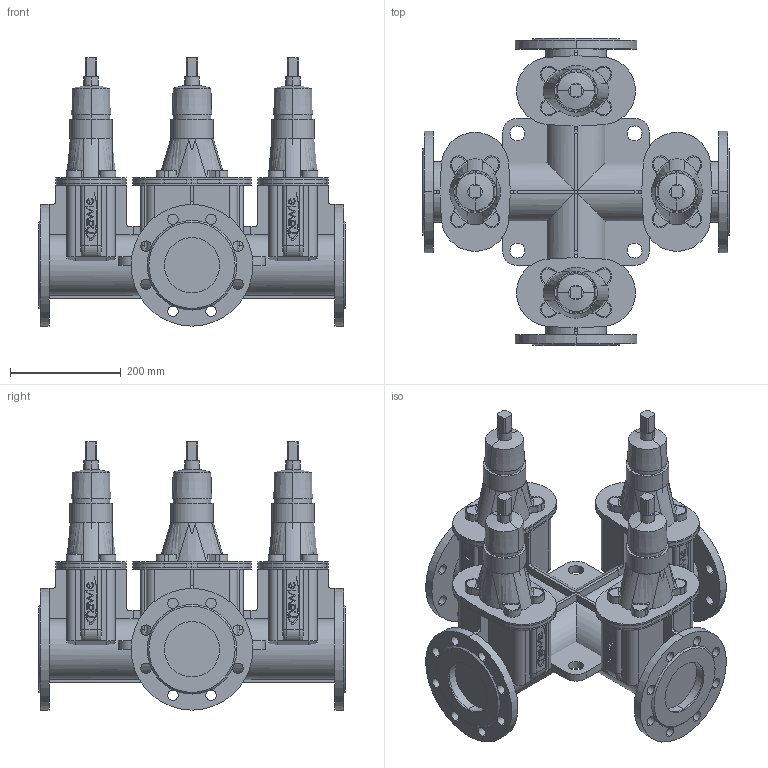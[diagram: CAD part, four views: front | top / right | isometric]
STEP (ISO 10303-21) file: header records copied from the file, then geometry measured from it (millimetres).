
FILE_DESCRIPTION(('STEP AP214'),'1');
FILE_NAME('S:/EK/USER/CAT6/3DHomepage_27-04-2012/neu_23-01-2013/4400E2/4400E2_PN16_DN100_4.STP','2013-01-23T14:46:58',(' '),(' '),'Spatial InterOp 3D',' ',' ');
FILE_SCHEMA(('automotive_design'));
Length unit declared in the file: millimetre
Products named in the file (186): 3D-Objekt
Bounding box: 555 x 555 x 485 mm (x, y, z)
Volume: 25508329.7 mm3; surface area: 2770064.2 mm2
Topology: 186 solids, 186 shells, 1750 faces, 4100 edges, 2730 vertices
Faces by surface type: plane 986, cylinder 668, bspline 48, cone 32, torus 16
Entity records: 69576 total; most frequent: CARTESIAN_POINT 9582, DIRECTION 9416, ORIENTED_EDGE 8200, EDGE_CURVE 4100, AXIS2_PLACEMENT_3D 3428, VERTEX_POINT 2730, LINE 2560, VECTOR 2560
